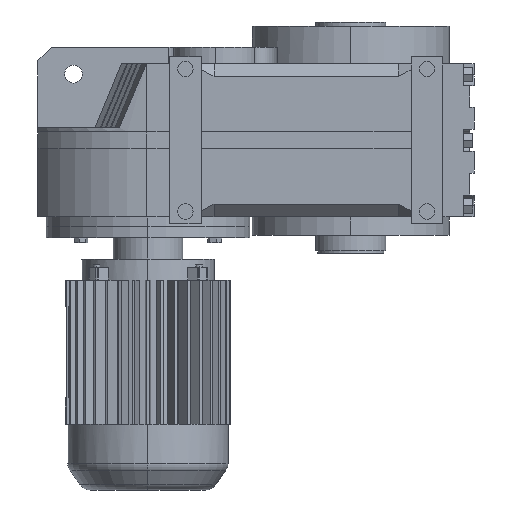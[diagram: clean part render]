
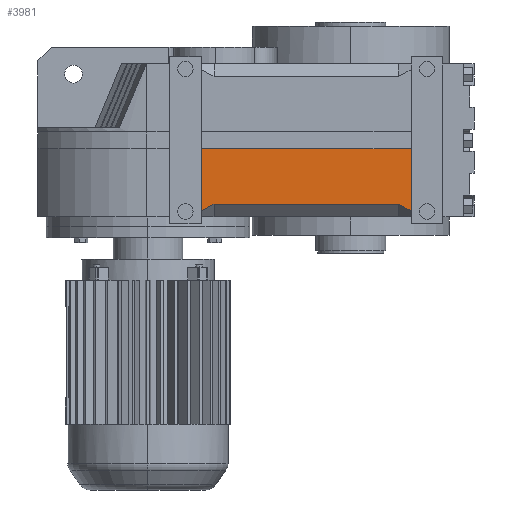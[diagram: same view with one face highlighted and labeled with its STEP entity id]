
A CAD part, left-side view. The second image highlights one B-rep face of the part: STEP entity #3981.
In plain terms, the highlighted planar face has unit normal (-1, 0, 0).
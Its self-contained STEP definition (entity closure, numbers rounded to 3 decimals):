
#145 = PLANE('',#146);
#146 = AXIS2_PLACEMENT_3D('',#147,#148,#149);
#147 = CARTESIAN_POINT('',(-83.76,-42.,2.5));
#148 = DIRECTION('',(0.,-1.,0.));
#149 = DIRECTION('',(0.,0.,-1.));
#163 = VERTEX_POINT('',#164);
#164 = CARTESIAN_POINT('',(-100.76,-42.,12.593));
#178 = PLANE('',#179);
#179 = AXIS2_PLACEMENT_3D('',#180,#181,#182);
#180 = CARTESIAN_POINT('',(-87.214,-42.,-0.954));
#181 = DIRECTION('',(0.664,0.342,0.664));
#182 = DIRECTION('',(0.707,0.,-0.707)
  );
#190 = EDGE_CURVE('',#191,#163,#193,.T.);
#191 = VERTEX_POINT('',#192);
#192 = CARTESIAN_POINT('',(-100.76,-42.,61.45));
#193 = SURFACE_CURVE('',#194,(#198,#205),.PCURVE_S1.);
#194 = LINE('',#195,#196);
#195 = CARTESIAN_POINT('',(-100.76,-42.,128.26));
#196 = VECTOR('',#197,1.);
#197 = DIRECTION('',(0.,0.,-1.));
#198 = PCURVE('',#145,#199);
#199 = DEFINITIONAL_REPRESENTATION('',(#200),#204);
#200 = LINE('',#201,#202);
#201 = CARTESIAN_POINT('',(-125.76,-17.));
#202 = VECTOR('',#203,1.);
#203 = DIRECTION('',(1.,0.));
#204 = ( GEOMETRIC_REPRESENTATION_CONTEXT(2) 
PARAMETRIC_REPRESENTATION_CONTEXT() REPRESENTATION_CONTEXT('2D SPACE',''
  ) );
#205 = PCURVE('',#206,#211);
#206 = PLANE('',#207);
#207 = AXIS2_PLACEMENT_3D('',#208,#209,#210);
#208 = CARTESIAN_POINT('',(-100.76,-256.5,128.26));
#209 = DIRECTION('',(1.,0.,0.));
#210 = DIRECTION('',(0.,1.,0.));
#211 = DEFINITIONAL_REPRESENTATION('',(#212),#216);
#212 = LINE('',#213,#214);
#213 = CARTESIAN_POINT('',(214.5,0.));
#214 = VECTOR('',#215,1.);
#215 = DIRECTION('',(0.,-1.));
#216 = ( GEOMETRIC_REPRESENTATION_CONTEXT(2) 
PARAMETRIC_REPRESENTATION_CONTEXT() REPRESENTATION_CONTEXT('2D SPACE',''
  ) );
#234 = PLANE('',#235);
#235 = AXIS2_PLACEMENT_3D('',#236,#237,#238);
#236 = CARTESIAN_POINT('',(-5.343,1.,61.45));
#237 = DIRECTION('',(0.,0.,-1.));
#238 = DIRECTION('',(-1.,0.,0.));
#610 = PLANE('',#611);
#611 = AXIS2_PLACEMENT_3D('',#612,#613,#614);
#612 = CARTESIAN_POINT('',(-83.76,-207.,2.5));
#613 = DIRECTION('',(0.,1.,0.));
#614 = DIRECTION('',(-1.,0.,0.));
#3745 = EDGE_CURVE('',#3746,#191,#3748,.T.);
#3746 = VERTEX_POINT('',#3747);
#3747 = CARTESIAN_POINT('',(-100.76,-207.,61.45));
#3748 = SURFACE_CURVE('',#3749,(#3753,#3760),.PCURVE_S1.);
#3749 = LINE('',#3750,#3751);
#3750 = CARTESIAN_POINT('',(-100.76,-256.5,61.45));
#3751 = VECTOR('',#3752,1.);
#3752 = DIRECTION('',(0.,1.,0.));
#3753 = PCURVE('',#234,#3754);
#3754 = DEFINITIONAL_REPRESENTATION('',(#3755),#3759);
#3755 = LINE('',#3756,#3757);
#3756 = CARTESIAN_POINT('',(95.417,-257.5));
#3757 = VECTOR('',#3758,1.);
#3758 = DIRECTION('',(0.,1.));
#3759 = ( GEOMETRIC_REPRESENTATION_CONTEXT(2) 
PARAMETRIC_REPRESENTATION_CONTEXT() REPRESENTATION_CONTEXT('2D SPACE',''
  ) );
#3760 = PCURVE('',#206,#3761);
#3761 = DEFINITIONAL_REPRESENTATION('',(#3762),#3766);
#3762 = LINE('',#3763,#3764);
#3763 = CARTESIAN_POINT('',(0.,-66.81));
#3764 = VECTOR('',#3765,1.);
#3765 = DIRECTION('',(1.,0.));
#3766 = ( GEOMETRIC_REPRESENTATION_CONTEXT(2) 
PARAMETRIC_REPRESENTATION_CONTEXT() REPRESENTATION_CONTEXT('2D SPACE',''
  ) );
#3981 = ADVANCED_FACE('',(#3982),#206,.F.);
#3982 = FACE_BOUND('',#3983,.T.);
#3983 = EDGE_LOOP('',(#3984,#3985,#4008,#4036,#4064,#4085));
#3984 = ORIENTED_EDGE('',*,*,#190,.T.);
#3985 = ORIENTED_EDGE('',*,*,#3986,.T.);
#3986 = EDGE_CURVE('',#163,#3987,#3989,.T.);
#3987 = VERTEX_POINT('',#3988);
#3988 = CARTESIAN_POINT('',(-100.76,-52.,17.74));
#3989 = SURFACE_CURVE('',#3990,(#3994,#4001),.PCURVE_S1.);
#3990 = LINE('',#3991,#3992);
#3991 = CARTESIAN_POINT('',(-100.76,-258.639,124.104));
#3992 = VECTOR('',#3993,1.);
#3993 = DIRECTION('',(0.,-0.889,0.458
    ));
#3994 = PCURVE('',#206,#3995);
#3995 = DEFINITIONAL_REPRESENTATION('',(#3996),#4000);
#3996 = LINE('',#3997,#3998);
#3997 = CARTESIAN_POINT('',(-2.139,-4.156));
#3998 = VECTOR('',#3999,1.);
#3999 = DIRECTION('',(-0.889,0.458));
#4000 = ( GEOMETRIC_REPRESENTATION_CONTEXT(2) 
PARAMETRIC_REPRESENTATION_CONTEXT() REPRESENTATION_CONTEXT('2D SPACE',''
  ) );
#4001 = PCURVE('',#178,#4002);
#4002 = DEFINITIONAL_REPRESENTATION('',(#4003),#4007);
#4003 = LINE('',#4004,#4005);
#4004 = CARTESIAN_POINT('',(-98.008,-230.543));
#4005 = VECTOR('',#4006,1.);
#4006 = DIRECTION('',(-0.324,-0.946));
#4007 = ( GEOMETRIC_REPRESENTATION_CONTEXT(2) 
PARAMETRIC_REPRESENTATION_CONTEXT() REPRESENTATION_CONTEXT('2D SPACE',''
  ) );
#4008 = ORIENTED_EDGE('',*,*,#4009,.T.);
#4009 = EDGE_CURVE('',#3987,#4010,#4012,.T.);
#4010 = VERTEX_POINT('',#4011);
#4011 = CARTESIAN_POINT('',(-100.76,-197.,17.74));
#4012 = SURFACE_CURVE('',#4013,(#4017,#4024),.PCURVE_S1.);
#4013 = LINE('',#4014,#4015);
#4014 = CARTESIAN_POINT('',(-100.76,-256.5,17.74));
#4015 = VECTOR('',#4016,1.);
#4016 = DIRECTION('',(0.,-1.,0.));
#4017 = PCURVE('',#206,#4018);
#4018 = DEFINITIONAL_REPRESENTATION('',(#4019),#4023);
#4019 = LINE('',#4020,#4021);
#4020 = CARTESIAN_POINT('',(0.,-110.52));
#4021 = VECTOR('',#4022,1.);
#4022 = DIRECTION('',(-1.,0.));
#4023 = ( GEOMETRIC_REPRESENTATION_CONTEXT(2) 
PARAMETRIC_REPRESENTATION_CONTEXT() REPRESENTATION_CONTEXT('2D SPACE',''
  ) );
#4024 = PCURVE('',#4025,#4030);
#4025 = PLANE('',#4026);
#4026 = AXIS2_PLACEMENT_3D('',#4027,#4028,#4029);
#4027 = CARTESIAN_POINT('',(-100.76,-256.5,17.74));
#4028 = DIRECTION('',(0.707,0.,0.707)
  );
#4029 = DIRECTION('',(0.707,0.,-0.707));
#4030 = DEFINITIONAL_REPRESENTATION('',(#4031),#4035);
#4031 = LINE('',#4032,#4033);
#4032 = CARTESIAN_POINT('',(0.,0.));
#4033 = VECTOR('',#4034,1.);
#4034 = DIRECTION('',(0.,-1.));
#4035 = ( GEOMETRIC_REPRESENTATION_CONTEXT(2) 
PARAMETRIC_REPRESENTATION_CONTEXT() REPRESENTATION_CONTEXT('2D SPACE',''
  ) );
#4036 = ORIENTED_EDGE('',*,*,#4037,.T.);
#4037 = EDGE_CURVE('',#4010,#4038,#4040,.T.);
#4038 = VERTEX_POINT('',#4039);
#4039 = CARTESIAN_POINT('',(-100.76,-207.,12.593));
#4040 = SURFACE_CURVE('',#4041,(#4045,#4052),.PCURVE_S1.);
#4041 = LINE('',#4042,#4043);
#4042 = CARTESIAN_POINT('',(-100.76,-199.065,16.677));
#4043 = VECTOR('',#4044,1.);
#4044 = DIRECTION('',(0.,-0.889,
    -0.458));
#4045 = PCURVE('',#206,#4046);
#4046 = DEFINITIONAL_REPRESENTATION('',(#4047),#4051);
#4047 = LINE('',#4048,#4049);
#4048 = CARTESIAN_POINT('',(57.435,-111.583));
#4049 = VECTOR('',#4050,1.);
#4050 = DIRECTION('',(-0.889,-0.458));
#4051 = ( GEOMETRIC_REPRESENTATION_CONTEXT(2) 
PARAMETRIC_REPRESENTATION_CONTEXT() REPRESENTATION_CONTEXT('2D SPACE',''
  ) );
#4052 = PCURVE('',#4053,#4058);
#4053 = PLANE('',#4054);
#4054 = AXIS2_PLACEMENT_3D('',#4055,#4056,#4057);
#4055 = CARTESIAN_POINT('',(-87.214,-207.,-0.954));
#4056 = DIRECTION('',(0.664,-0.342,0.664));
#4057 = DIRECTION('',(0.707,0.,-0.707));
#4058 = DEFINITIONAL_REPRESENTATION('',(#4059),#4063);
#4059 = LINE('',#4060,#4061);
#4060 = CARTESIAN_POINT('',(-22.046,8.444));
#4061 = VECTOR('',#4062,1.);
#4062 = DIRECTION('',(0.324,-0.946));
#4063 = ( GEOMETRIC_REPRESENTATION_CONTEXT(2) 
PARAMETRIC_REPRESENTATION_CONTEXT() REPRESENTATION_CONTEXT('2D SPACE',''
  ) );
#4064 = ORIENTED_EDGE('',*,*,#4065,.T.);
#4065 = EDGE_CURVE('',#4038,#3746,#4066,.T.);
#4066 = SURFACE_CURVE('',#4067,(#4071,#4078),.PCURVE_S1.);
#4067 = LINE('',#4068,#4069);
#4068 = CARTESIAN_POINT('',(-100.76,-207.,128.26));
#4069 = VECTOR('',#4070,1.);
#4070 = DIRECTION('',(0.,0.,1.));
#4071 = PCURVE('',#206,#4072);
#4072 = DEFINITIONAL_REPRESENTATION('',(#4073),#4077);
#4073 = LINE('',#4074,#4075);
#4074 = CARTESIAN_POINT('',(49.5,0.));
#4075 = VECTOR('',#4076,1.);
#4076 = DIRECTION('',(0.,1.));
#4077 = ( GEOMETRIC_REPRESENTATION_CONTEXT(2) 
PARAMETRIC_REPRESENTATION_CONTEXT() REPRESENTATION_CONTEXT('2D SPACE',''
  ) );
#4078 = PCURVE('',#610,#4079);
#4079 = DEFINITIONAL_REPRESENTATION('',(#4080),#4084);
#4080 = LINE('',#4081,#4082);
#4081 = CARTESIAN_POINT('',(17.,125.76));
#4082 = VECTOR('',#4083,1.);
#4083 = DIRECTION('',(0.,1.));
#4084 = ( GEOMETRIC_REPRESENTATION_CONTEXT(2) 
PARAMETRIC_REPRESENTATION_CONTEXT() REPRESENTATION_CONTEXT('2D SPACE',''
  ) );
#4085 = ORIENTED_EDGE('',*,*,#3745,.T.);
